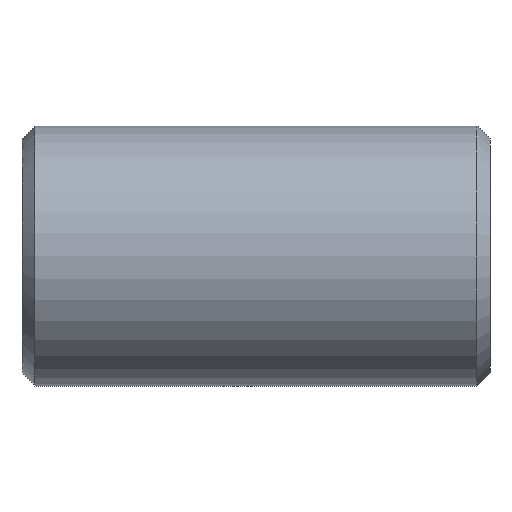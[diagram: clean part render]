
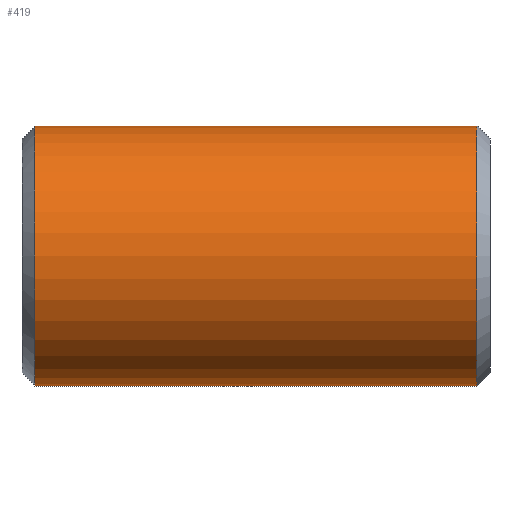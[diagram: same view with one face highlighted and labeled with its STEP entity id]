
A CAD part, front view. The second image highlights one B-rep face of the part: STEP entity #419.
In plain terms, the highlighted cylindrical face has radius 10 mm (diameter 20 mm), a partial arc.
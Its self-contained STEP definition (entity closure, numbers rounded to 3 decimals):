
#231=CARTESIAN_POINT('Vertex',(1.,0.,-10.)) ;
#238=CARTESIAN_POINT('Vertex',(1.,0.,10.)) ;
#267=CARTESIAN_POINT('Axis2P3D Location',(1.,0.,0.)) ;
#271=CARTESIAN_POINT('Vertex',(1.,-10.,0.)) ;
#274=CARTESIAN_POINT('Axis2P3D Location',(1.,0.,0.)) ;
#359=CARTESIAN_POINT('Line Origine',(36.,0.,10.)) ;
#363=CARTESIAN_POINT('Vertex',(35.,0.,10.)) ;
#377=CARTESIAN_POINT('Vertex',(35.,0.,-10.)) ;
#380=CARTESIAN_POINT('Line Origine',(36.,0.,-10.)) ;
#394=CARTESIAN_POINT('Axis2P3D Location',(36.,0.,0.)) ;
#399=CARTESIAN_POINT('Axis2P3D Location',(35.,0.,0.)) ;
#403=CARTESIAN_POINT('Vertex',(35.,-10.,0.)) ;
#406=CARTESIAN_POINT('Axis2P3D Location',(35.,0.,0.)) ;
#268=DIRECTION('Axis2P3D Direction',(1.,0.,-0.)) ;
#275=DIRECTION('Axis2P3D Direction',(1.,0.,-0.)) ;
#360=DIRECTION('Vector Direction',(-1.,0.,0.)) ;
#381=DIRECTION('Vector Direction',(-1.,0.,0.)) ;
#395=DIRECTION('Axis2P3D Direction',(-1.,-0.,-0.)) ;
#396=DIRECTION('Axis2P3D XDirection',(0.,0.,-1.)) ;
#400=DIRECTION('Axis2P3D Direction',(-1.,-0.,-0.)) ;
#407=DIRECTION('Axis2P3D Direction',(-1.,-0.,-0.)) ;
#269=AXIS2_PLACEMENT_3D('Circle Axis2P3D',#267,#268,$) ;
#276=AXIS2_PLACEMENT_3D('Circle Axis2P3D',#274,#275,$) ;
#397=AXIS2_PLACEMENT_3D('Cylinder Axis2P3D',#394,#395,#396) ;
#401=AXIS2_PLACEMENT_3D('Circle Axis2P3D',#399,#400,$) ;
#408=AXIS2_PLACEMENT_3D('Circle Axis2P3D',#406,#407,$) ;
#412=ORIENTED_EDGE('',*,*,#384,.T.) ;
#413=ORIENTED_EDGE('',*,*,#405,.F.) ;
#414=ORIENTED_EDGE('',*,*,#410,.F.) ;
#415=ORIENTED_EDGE('',*,*,#365,.T.) ;
#416=ORIENTED_EDGE('',*,*,#278,.T.) ;
#417=ORIENTED_EDGE('',*,*,#273,.T.) ;
#361=VECTOR('Line Direction',#360,1.) ;
#382=VECTOR('Line Direction',#381,1.) ;
#419=ADVANCED_FACE('352-14X36',(#418),#398,.T.) ;
#270=CIRCLE('generated circle',#269,10.) ;
#277=CIRCLE('generated circle',#276,10.) ;
#402=CIRCLE('generated circle',#401,10.) ;
#409=CIRCLE('generated circle',#408,10.) ;
#398=CYLINDRICAL_SURFACE('generated cylinder',#397,10.) ;
#273=EDGE_CURVE('',#272,#232,#270,.T.) ;
#278=EDGE_CURVE('',#239,#272,#277,.T.) ;
#365=EDGE_CURVE('',#364,#239,#362,.T.) ;
#384=EDGE_CURVE('',#232,#378,#383,.F.) ;
#405=EDGE_CURVE('',#404,#378,#402,.F.) ;
#410=EDGE_CURVE('',#364,#404,#409,.F.) ;
#411=EDGE_LOOP('',(#412,#413,#414,#415,#416,#417)) ;
#418=FACE_OUTER_BOUND('',#411,.T.) ;
#362=LINE('Line',#359,#361) ;
#383=LINE('Line',#380,#382) ;
#232=VERTEX_POINT('',#231) ;
#239=VERTEX_POINT('',#238) ;
#272=VERTEX_POINT('',#271) ;
#364=VERTEX_POINT('',#363) ;
#378=VERTEX_POINT('',#377) ;
#404=VERTEX_POINT('',#403) ;
